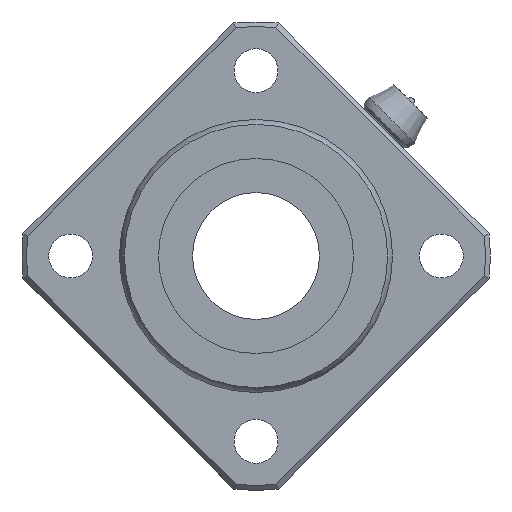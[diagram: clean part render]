
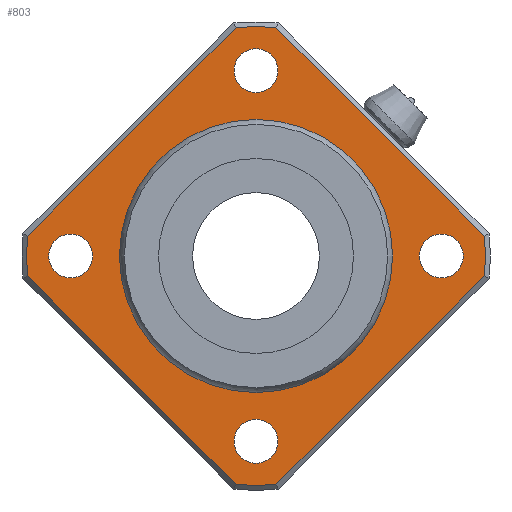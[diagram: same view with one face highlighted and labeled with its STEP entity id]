
A CAD part, left-side view. The second image highlights one B-rep face of the part: STEP entity #803.
In plain terms, the highlighted planar face has unit normal (-1, 0, 0).
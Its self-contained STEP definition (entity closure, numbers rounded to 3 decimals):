
#490=CARTESIAN_POINT('',(6.,-2.045,-23.411));
#491=VERTEX_POINT('',#490);
#499=CARTESIAN_POINT('',(6.,2.045,-23.411));
#500=VERTEX_POINT('',#499);
#501=CARTESIAN_POINT('',(6.,0.0,0.0));
#502=DIRECTION('',(1.0,0.0,0.0));
#503=DIRECTION('',(0.0,0.0,-1.0));
#504=AXIS2_PLACEMENT_3D('',#501,#502,#503);
#505=CIRCLE('',#504,23.5);
#506=EDGE_CURVE('',#491,#500,#505,.T.);
#525=CARTESIAN_POINT('',(6.,23.411,-2.045));
#526=VERTEX_POINT('',#525);
#527=CARTESIAN_POINT('',(6.,2.045,-23.411));
#528=DIRECTION('',(0.0,0.707,0.707));
#529=VECTOR('',#528,30.216);
#530=LINE('',#527,#529);
#531=EDGE_CURVE('',#500,#526,#530,.T.);
#558=CARTESIAN_POINT('',(6.,23.411,2.045));
#559=VERTEX_POINT('',#558);
#560=CARTESIAN_POINT('',(6.,0.0,0.0));
#561=DIRECTION('',(1.0,0.0,0.0));
#562=DIRECTION('',(0.0,0.0,1.0));
#563=AXIS2_PLACEMENT_3D('',#560,#561,#562);
#564=CIRCLE('',#563,23.5);
#565=EDGE_CURVE('',#526,#559,#564,.T.);
#591=CARTESIAN_POINT('',(6.,2.045,23.411));
#592=VERTEX_POINT('',#591);
#593=CARTESIAN_POINT('',(6.,23.411,2.045));
#594=DIRECTION('',(0.0,-0.707,0.707));
#595=VECTOR('',#594,30.216);
#596=LINE('',#593,#595);
#597=EDGE_CURVE('',#559,#592,#596,.T.);
#624=CARTESIAN_POINT('',(6.,-2.045,23.411));
#625=VERTEX_POINT('',#624);
#626=CARTESIAN_POINT('',(6.,0.0,0.0));
#627=DIRECTION('',(1.0,0.0,0.0));
#628=DIRECTION('',(0.0,0.0,1.0));
#629=AXIS2_PLACEMENT_3D('',#626,#627,#628);
#630=CIRCLE('',#629,23.5);
#631=EDGE_CURVE('',#592,#625,#630,.T.);
#655=CARTESIAN_POINT('',(6.,-23.411,2.045));
#656=VERTEX_POINT('',#655);
#657=CARTESIAN_POINT('',(6.,-2.045,23.411));
#658=DIRECTION('',(0.0,-0.707,-0.707));
#659=VECTOR('',#658,30.216);
#660=LINE('',#657,#659);
#661=EDGE_CURVE('',#625,#656,#660,.T.);
#680=CARTESIAN_POINT('',(6.,-23.411,-2.045));
#681=VERTEX_POINT('',#680);
#682=CARTESIAN_POINT('',(6.,0.0,0.0));
#683=DIRECTION('',(1.0,0.0,0.0));
#684=DIRECTION('',(0.0,0.0,1.0));
#685=AXIS2_PLACEMENT_3D('',#682,#683,#684);
#686=CIRCLE('',#685,23.5);
#687=EDGE_CURVE('',#656,#681,#686,.T.);
#706=CARTESIAN_POINT('',(6.,-23.411,-2.045));
#707=DIRECTION('',(0.0,0.707,-0.707));
#708=VECTOR('',#707,30.216);
#709=LINE('',#706,#708);
#710=EDGE_CURVE('',#681,#491,#709,.T.);
#733=CARTESIAN_POINT('',(6.,0.0,18.887));
#734=DIRECTION('',(-1.0,0.0,0.0));
#735=DIRECTION('',(0.0,0.0,1.0));
#736=AXIS2_PLACEMENT_3D('',#733,#734,#735);
#737=PLANE('',#736);
#738=ORIENTED_EDGE('',*,*,#506,.F.);
#739=ORIENTED_EDGE('',*,*,#710,.F.);
#740=ORIENTED_EDGE('',*,*,#687,.F.);
#741=ORIENTED_EDGE('',*,*,#661,.F.);
#742=ORIENTED_EDGE('',*,*,#631,.F.);
#743=ORIENTED_EDGE('',*,*,#597,.F.);
#744=ORIENTED_EDGE('',*,*,#565,.F.);
#745=ORIENTED_EDGE('',*,*,#531,.F.);
#746=EDGE_LOOP('',(#738,#739,#740,#741,#742,#743,#744,#745));
#747=FACE_OUTER_BOUND('',#746,.T.);
#748=CARTESIAN_POINT('',(6.,0.0,13.773));
#749=VERTEX_POINT('',#748);
#750=CARTESIAN_POINT('',(6.,0.0,0.0));
#751=DIRECTION('',(-1.0,0.0,0.0));
#752=DIRECTION('',(0.0,0.0,1.0));
#753=AXIS2_PLACEMENT_3D('',#750,#751,#752);
#754=CIRCLE('',#753,13.773);
#755=EDGE_CURVE('',#749,#749,#754,.T.);
#756=ORIENTED_EDGE('',*,*,#755,.F.);
#757=EDGE_LOOP('',(#756));
#758=FACE_BOUND('',#757,.T.);
#759=CARTESIAN_POINT('',(6.,16.75,0.));
#760=VERTEX_POINT('',#759);
#761=CARTESIAN_POINT('',(6.,19.0,0.));
#762=DIRECTION('',(1.0,0.0,0.0));
#763=DIRECTION('',(0.0,1.0,0.0));
#764=AXIS2_PLACEMENT_3D('',#761,#762,#763);
#765=CIRCLE('',#764,2.25);
#766=EDGE_CURVE('',#760,#760,#765,.T.);
#767=ORIENTED_EDGE('',*,*,#766,.T.);
#768=EDGE_LOOP('',(#767));
#769=FACE_BOUND('',#768,.T.);
#770=CARTESIAN_POINT('',(6.,-21.25,0.));
#771=VERTEX_POINT('',#770);
#772=CARTESIAN_POINT('',(6.,-19.0,0.));
#773=DIRECTION('',(1.0,0.0,0.0));
#774=DIRECTION('',(0.0,1.0,0.0));
#775=AXIS2_PLACEMENT_3D('',#772,#773,#774);
#776=CIRCLE('',#775,2.25);
#777=EDGE_CURVE('',#771,#771,#776,.T.);
#778=ORIENTED_EDGE('',*,*,#777,.T.);
#779=EDGE_LOOP('',(#778));
#780=FACE_BOUND('',#779,.T.);
#781=CARTESIAN_POINT('',(6.,-2.25,19.0));
#782=VERTEX_POINT('',#781);
#783=CARTESIAN_POINT('',(6.,0.,19.0));
#784=DIRECTION('',(1.0,0.0,0.0));
#785=DIRECTION('',(0.0,1.0,0.0));
#786=AXIS2_PLACEMENT_3D('',#783,#784,#785);
#787=CIRCLE('',#786,2.25);
#788=EDGE_CURVE('',#782,#782,#787,.T.);
#789=ORIENTED_EDGE('',*,*,#788,.T.);
#790=EDGE_LOOP('',(#789));
#791=FACE_BOUND('',#790,.T.);
#792=CARTESIAN_POINT('',(6.,-2.25,-19.0));
#793=VERTEX_POINT('',#792);
#794=CARTESIAN_POINT('',(6.,0.,-19.0));
#795=DIRECTION('',(1.0,0.0,0.0));
#796=DIRECTION('',(0.0,1.0,0.0));
#797=AXIS2_PLACEMENT_3D('',#794,#795,#796);
#798=CIRCLE('',#797,2.25);
#799=EDGE_CURVE('',#793,#793,#798,.T.);
#800=ORIENTED_EDGE('',*,*,#799,.T.);
#801=EDGE_LOOP('',(#800));
#802=FACE_BOUND('',#801,.T.);
#803=ADVANCED_FACE('',(#747,#758,#769,#780,#791,#802),#737,.T.);
